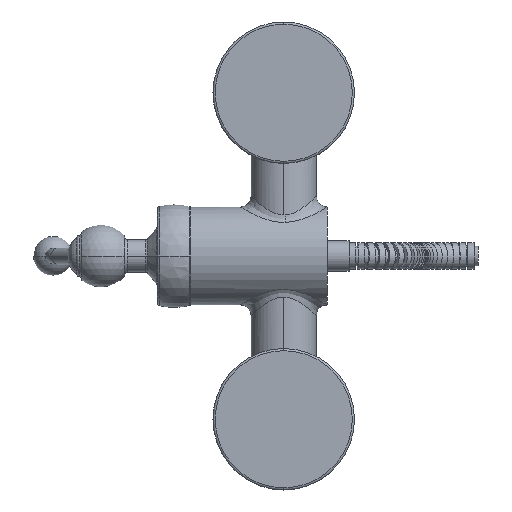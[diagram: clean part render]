
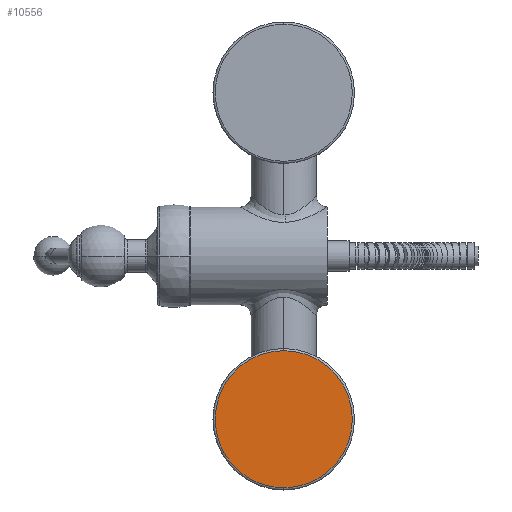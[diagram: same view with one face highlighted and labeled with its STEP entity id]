
A CAD part, left-side view. The second image highlights one B-rep face of the part: STEP entity #10556.
In plain terms, the highlighted planar face has unit normal (-1, 0, 0).
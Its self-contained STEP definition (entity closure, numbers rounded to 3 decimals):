
#603 = AXIS2_PLACEMENT_3D ( 'NONE', #4614, #3515, #5601 ) ;
#1030 = VERTEX_POINT ( 'NONE', #6265 ) ;
#2452 = DIRECTION ( 'NONE',  ( -1., 0., 0. ) ) ;
#2794 = CIRCLE ( 'NONE', #7750, 31.5 ) ;
#3405 = DIRECTION ( 'NONE',  ( 0., 0., 1. ) ) ;
#3515 = DIRECTION ( 'NONE',  ( -1., 0., 0. ) ) ;
#3541 = CARTESIAN_POINT ( 'NONE',  ( -60., 20., -75. ) ) ;
#3705 = CARTESIAN_POINT ( 'NONE',  ( -60., 20., -75. ) ) ;
#4087 = ORIENTED_EDGE ( 'NONE', *, *, #7054, .T. ) ;
#4124 = EDGE_LOOP ( 'NONE', ( #4087, #12736 ) ) ;
#4614 = CARTESIAN_POINT ( 'NONE',  ( -60., 20., -75. ) ) ;
#5191 = FACE_OUTER_BOUND ( 'NONE', #4124, .T. ) ;
#5589 = DIRECTION ( 'NONE',  ( 0., 0., 1. ) ) ;
#5601 = DIRECTION ( 'NONE',  ( 0., 0., 1. ) ) ;
#6265 = CARTESIAN_POINT ( 'NONE',  ( -60., 20., -43.5 ) ) ;
#7054 = EDGE_CURVE ( 'NONE', #1030, #11421, #13158, .T. ) ;
#7750 = AXIS2_PLACEMENT_3D ( 'NONE', #3541, #2452, #3405 ) ;
#7981 = AXIS2_PLACEMENT_3D ( 'NONE', #3705, #11729, #5589 ) ;
#8248 = CARTESIAN_POINT ( 'NONE',  ( -60., 20., -106.5 ) ) ;
#8721 = PLANE ( 'NONE',  #7981 ) ;
#10556 = ADVANCED_FACE ( 'NONE', ( #5191 ), #8721, .T. ) ;
#11421 = VERTEX_POINT ( 'NONE', #8248 ) ;
#11729 = DIRECTION ( 'NONE',  ( -1., 0., 0. ) ) ;
#12484 = EDGE_CURVE ( 'NONE', #11421, #1030, #2794, .T. ) ;
#12736 = ORIENTED_EDGE ( 'NONE', *, *, #12484, .T. ) ;
#13158 = CIRCLE ( 'NONE', #603, 31.5 ) ;
